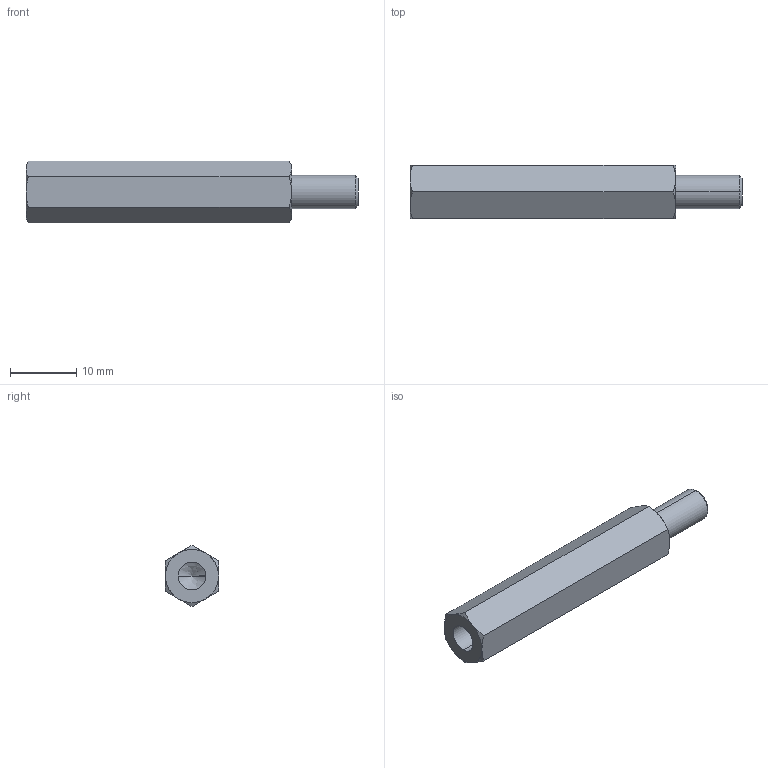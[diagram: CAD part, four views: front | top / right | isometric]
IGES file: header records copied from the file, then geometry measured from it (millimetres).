
Start section: SolidWorks IGES file using analytic representation for surfaces
Global section: file name: C:\Users\render1\Desktop\P0185_IGES\P0185.05-40.igs; native system: SolidWorks 2009; preprocessor: SolidWorks 2009; author: render1; date: 130627.112606; units: millimetre
Bounding box: 50 x 8 x 9.24 mm (x, y, z)
Surface area: 1501.4 mm2 (no closed solid volume)
Topology: 0 solids, 0 shells, 29 faces, 324 edges, 322 vertices
Faces by surface type: revolution 20, bspline 9
